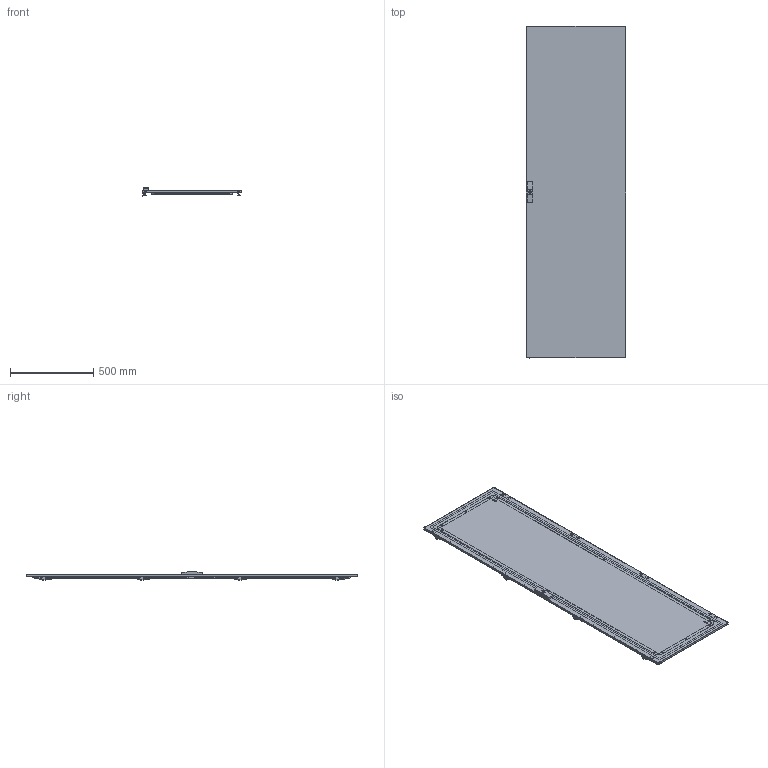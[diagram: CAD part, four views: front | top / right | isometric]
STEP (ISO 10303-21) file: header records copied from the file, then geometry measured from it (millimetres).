
FILE_DESCRIPTION (( 'STEP AP214' ), '1' );
FILE_NAME ('YKM40D-FO-DM-200-060 Äâåðü ìåòàëëè÷åñêàÿ 2000õ600ìì.STEP', '2025-09-29T10:45:00', ( '' ), ( '' ), 'SwSTEP 2.0', 'SolidWorks 2023', '' );
FILE_SCHEMA (( 'AUTOMOTIVE_DESIGN' ));
Length unit declared in the file: millimetre
Products named in the file (4): YKM40D-FO-DM-200-060 Дверь металлическая 2000х600мм; Дверь металлическая 2000х600 мм; Петли для замка 2000x600; Петли 2000x600
Assembly tree (3 placements, depth 2):
  YKM40D-FO-DM-200-060 Дверь металлическая 2000х600мм
    Дверь металлическая 2000х600 мм
    Петли 2000x600
    Петли для замка 2000x600
Bounding box: 595 x 1992.6 x 51.93 mm (x, y, z)
Volume: 3651235.6 mm3; surface area: 3141766.1 mm2
Topology: 9 solids, 13 shells, 3184 faces, 8595 edges, 5612 vertices
Faces by surface type: plane 2023, cylinder 961, cone 200
Entity records: 102644 total; most frequent: CARTESIAN_POINT 19821, ORIENTED_EDGE 17190, DIRECTION 16981, EDGE_CURVE 8595, VECTOR 6269, LINE 6269, VERTEX_POINT 5612, AXIS2_PLACEMENT_3D 5356
